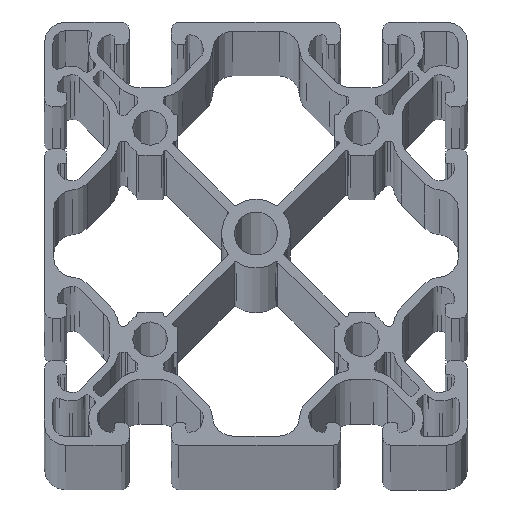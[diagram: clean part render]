
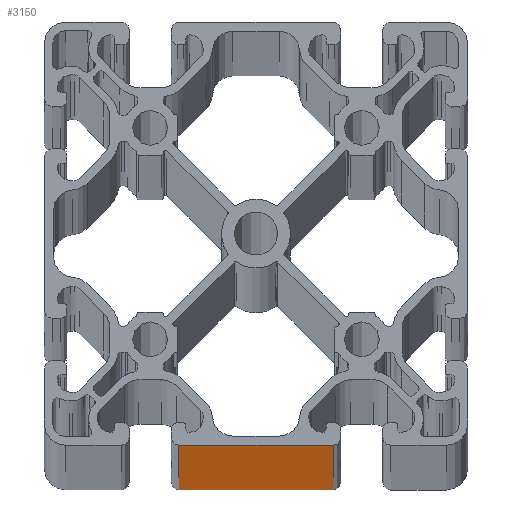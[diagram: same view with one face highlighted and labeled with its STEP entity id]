
A CAD part, top view. The second image highlights one B-rep face of the part: STEP entity #3150.
In plain terms, the highlighted planar face has unit normal (0, -1, 0).
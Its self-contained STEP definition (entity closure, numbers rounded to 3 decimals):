
#970 = CARTESIAN_POINT ( 'NONE',  ( -18.2, -50., -6060. ) ) ;
#1362 = CARTESIAN_POINT ( 'NONE',  ( -18.2, -50., 0. ) ) ;
#1725 = EDGE_CURVE ( 'NONE', #14941, #3131, #8139, .T. ) ;
#2338 = DIRECTION ( 'NONE',  ( 1., 0., 0. ) ) ;
#2561 = EDGE_CURVE ( 'NONE', #17479, #3131, #6629, .T. ) ;
#3131 = VERTEX_POINT ( 'NONE', #5976 ) ;
#3150 = ADVANCED_FACE ( 'NONE', ( #15414 ), #12871, .T. ) ;
#3560 = DIRECTION ( 'NONE',  ( 0., 0., 1. ) ) ;
#4145 = DIRECTION ( 'NONE',  ( 0., 0., 1. ) ) ;
#4705 = DIRECTION ( 'NONE',  ( 0., 0., -1. ) ) ;
#5191 = VECTOR ( 'NONE', #2338, 1000. ) ;
#5277 = ORIENTED_EDGE ( 'NONE', *, *, #16012, .F. ) ;
#5976 = CARTESIAN_POINT ( 'NONE',  ( 18.2, -50., 0. ) ) ;
#6060 = AXIS2_PLACEMENT_3D ( 'NONE', #8780, #14323, #4705 ) ;
#6629 = LINE ( 'NONE', #9781, #16269 ) ;
#7790 = LINE ( 'NONE', #970, #5191 ) ;
#8139 = LINE ( 'NONE', #12219, #15057 ) ;
#8355 = CARTESIAN_POINT ( 'NONE',  ( 18.2, -50., -6060. ) ) ;
#8660 = CARTESIAN_POINT ( 'NONE',  ( -18.2, -50., -6060. ) ) ;
#8780 = CARTESIAN_POINT ( 'NONE',  ( -18.2, -50., -6060. ) ) ;
#8968 = ORIENTED_EDGE ( 'NONE', *, *, #1725, .T. ) ;
#8999 = CARTESIAN_POINT ( 'NONE',  ( -18.2, -50., -6060. ) ) ;
#9781 = CARTESIAN_POINT ( 'NONE',  ( -18.2, -50., 0. ) ) ;
#11592 = ORIENTED_EDGE ( 'NONE', *, *, #2561, .F. ) ;
#12219 = CARTESIAN_POINT ( 'NONE',  ( 18.2, -50., -6060. ) ) ;
#12510 = DIRECTION ( 'NONE',  ( 1., 0., 0. ) ) ;
#12780 = EDGE_CURVE ( 'NONE', #13473, #14941, #7790, .T. ) ;
#12871 = PLANE ( 'NONE',  #6060 ) ;
#13453 = LINE ( 'NONE', #8999, #16604 ) ;
#13473 = VERTEX_POINT ( 'NONE', #8660 ) ;
#13653 = EDGE_LOOP ( 'NONE', ( #11592, #5277, #17295, #8968 ) ) ;
#14323 = DIRECTION ( 'NONE',  ( 0., -1., 0. ) ) ;
#14941 = VERTEX_POINT ( 'NONE', #8355 ) ;
#15057 = VECTOR ( 'NONE', #4145, 1000. ) ;
#15414 = FACE_OUTER_BOUND ( 'NONE', #13653, .T. ) ;
#16012 = EDGE_CURVE ( 'NONE', #13473, #17479, #13453, .T. ) ;
#16269 = VECTOR ( 'NONE', #12510, 1000. ) ;
#16604 = VECTOR ( 'NONE', #3560, 1000. ) ;
#17295 = ORIENTED_EDGE ( 'NONE', *, *, #12780, .T. ) ;
#17479 = VERTEX_POINT ( 'NONE', #1362 ) ;
